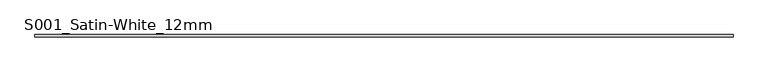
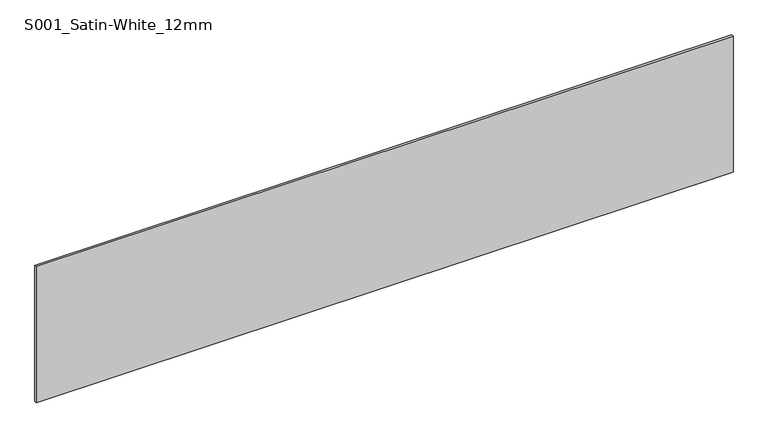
"""IFC4 building model written with IfcOpenShell, lengths in millimetres: plate geometry, Curtain-Panels_Outdoor-Material_HI-MACS_Solids : S001_Satin-White_12mm."""

from ifc_helpers import new_model, si_unit, origin, origin_with_axes, place, context, project, spatial, polyline, outline, extrude, source, transform, mapped, element, save


def s001_satin_white_12mm_60b0a342(model_context):
    return source(origin(), model_context, "Body", "SweptSolid", [
        extrude(outline(polyline([(1840.0, 6.0), (1840.0, -6.0), (-1840.0, -6.0), (-1840.0, 6.0), (1840.0, 6.0)])), origin_with_axes(), (0.0, 0.0, 1.0), 760.0),
    ])


if __name__ == "__main__":
    model = new_model("IFC4")
    model_context = context("Model", 3, world=origin())
    ifc_project = project(units=[si_unit("LENGTHUNIT", "METRE", prefix="MILLI")], contexts=[model_context])
    site = spatial("IfcSite", under=ifc_project)
    building = spatial("IfcBuilding", under=site)
    placement = place(None, origin())
    s001_satin_white_12mm_shape = s001_satin_white_12mm_60b0a342(model_context)
    element("IfcPlate", 1, ObjectType="Curtain-Panels_Outdoor-Material_HI-MACS_Solids : S001_Satin-White_12mm", at=placement, inside=building, context=model_context, shape_type="MappedRepresentation", body=[
        mapped(s001_satin_white_12mm_shape, transform((0.0, 0.0, 0.0), x_axis=(1.0, 0.0, 0.0), y_axis=(0.0, 1.0, 0.0), z_axis=(0.0, 0.0, 1.0))),
    ])
    save(model, "model.ifc")
